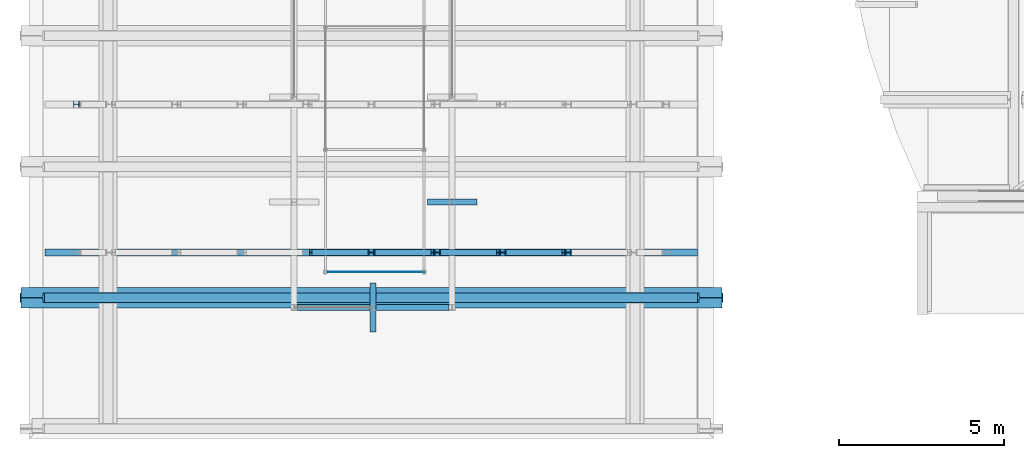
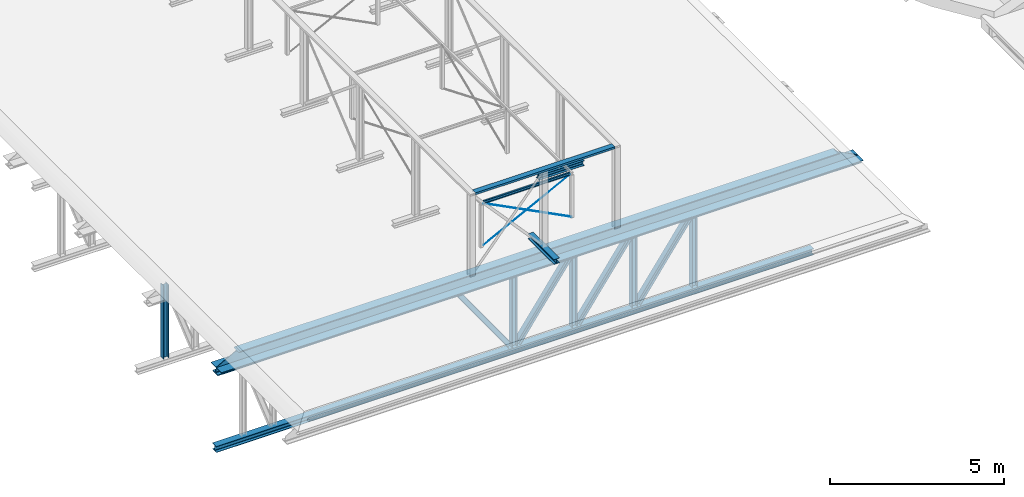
# One storey, part 9 of 50: 17 beams.
"""IFC2X3 building model written with IfcOpenShell, lengths in millimetres."""

from ifc_helpers import new_model, entity, si_unit, converted_unit, derived_unit, direction, frame, frame_2d, origin, origin_2d_with_axis, place, context, subcontext, project, spatial, polyline, circle_curve, parameter, trimmed, segment, composite_curve, rectangle, circle, i_section, outline, extrude, clip, halfspace, bounded_halfspace, source, transform, mapped, material, material_list, type_object, type_shapes, element, save


model = new_model("IFC2X3")

# Units and contexts
model_context = context("Model", 3, precision=0.01, world=origin(), true_north=direction((6.12303176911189e-17, 1.0)))
body_context = subcontext(model_context, "Body", "Model", "MODEL_VIEW")
ifc_project = project(units=[si_unit("LENGTHUNIT", "METRE", prefix="MILLI"), si_unit("AREAUNIT", "SQUARE_METRE", prefix="MILLI"), si_unit("VOLUMEUNIT", "CUBIC_METRE"), converted_unit("PLANEANGLEUNIT", "DEGREE", entity("IfcRatioMeasure", 0.0174532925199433), si_unit("PLANEANGLEUNIT", "RADIAN"), dimensions=[0, 0, 0, 0, 0, 0, 0]), si_unit("MASSUNIT", "GRAM", prefix="KILO"), derived_unit("MASSDENSITYUNIT", [(si_unit("MASSUNIT", "GRAM", prefix="KILO"), 1), (si_unit("LENGTHUNIT", "METRE"), -3)]), derived_unit("MOMENTOFINERTIAUNIT", [(si_unit("LENGTHUNIT", "METRE"), 4)]), si_unit("TIMEUNIT", "SECOND"), si_unit("FREQUENCYUNIT", "HERTZ"), si_unit("THERMODYNAMICTEMPERATUREUNIT", "DEGREE_CELSIUS"), derived_unit("THERMALTRANSMITTANCEUNIT", [(si_unit("MASSUNIT", "GRAM", prefix="KILO"), 1), (si_unit("THERMODYNAMICTEMPERATUREUNIT", "KELVIN"), -1), (si_unit("TIMEUNIT", "SECOND"), -3)]), derived_unit("VOLUMETRICFLOWRATEUNIT", [(si_unit("LENGTHUNIT", "METRE"), 3), (si_unit("TIMEUNIT", "SECOND"), -1)]), si_unit("ELECTRICCURRENTUNIT", "AMPERE"), si_unit("ELECTRICVOLTAGEUNIT", "VOLT"), si_unit("POWERUNIT", "WATT"), si_unit("FORCEUNIT", "NEWTON", prefix="KILO"), si_unit("ILLUMINANCEUNIT", "LUX"), si_unit("LUMINOUSFLUXUNIT", "LUMEN"), si_unit("LUMINOUSINTENSITYUNIT", "CANDELA"), derived_unit("USERDEFINED", [(si_unit("MASSUNIT", "GRAM", prefix="KILO"), -1), (si_unit("LENGTHUNIT", "METRE"), -2), (si_unit("TIMEUNIT", "SECOND"), 3), (si_unit("LUMINOUSFLUXUNIT", "LUMEN"), 1)]), derived_unit("LINEARVELOCITYUNIT", [(si_unit("LENGTHUNIT", "METRE"), 1), (si_unit("TIMEUNIT", "SECOND"), -1)]), si_unit("PRESSUREUNIT", "PASCAL"), derived_unit("USERDEFINED", [(si_unit("LENGTHUNIT", "METRE"), -2), (si_unit("MASSUNIT", "GRAM", prefix="KILO"), 1), (si_unit("TIMEUNIT", "SECOND"), -2)]), derived_unit("LINEARFORCEUNIT", [(si_unit("MASSUNIT", "GRAM", prefix="KILO"), 1), (si_unit("LENGTHUNIT", "METRE"), 1), (si_unit("TIMEUNIT", "SECOND"), -2), (si_unit("LENGTHUNIT", "METRE"), -1)]), derived_unit("PLANARFORCEUNIT", [(si_unit("MASSUNIT", "GRAM", prefix="KILO"), 1), (si_unit("LENGTHUNIT", "METRE"), 1), (si_unit("TIMEUNIT", "SECOND"), -2), (si_unit("LENGTHUNIT", "METRE"), -2)])], contexts=[model_context])

# Site, building, storey
site_placement = place(None, origin())
site = spatial("IfcSite", under=ifc_project, at=site_placement, Name="Theater aan de Parade", CompositionType="ELEMENT")
building_placement = place(site_placement, origin())
building = spatial("IfcBuilding", under=site, at=building_placement, Name="Theater aan de Parade", CompositionType="ELEMENT")
storey_placement = place(building_placement, frame((0.0, 0.0, 15820.0)))
storey = spatial("IfcBuildingStorey", under=building, at=storey_placement, Name="04 vierde verdieping", CompositionType="ELEMENT", Elevation=15820.0)

# Beams
ifc_material_1 = material(Name="00_PBT_MAT_staal_S355")
beam_type_1 = type_object("IfcBeamType", Name="28_PBT_SF_staal_H-profiel:S355_HE220B", PredefinedType="NOTDEFINED")
beam_1_placement = place(storey_placement, frame((16193.8569884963, 19068.2922984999, -4340.0)))
element("IfcBeam", 1, at=beam_1_placement, inside=storey, type_object=beam_type_1, material=ifc_material_1, Name="28_PBT_SF_staal_H-profiel:S355_HE220B", ObjectType="28_PBT_SF_staal_H-profiel:S355_HE220B", context=body_context, shape_type="SweptSolid", body=[
    extrude(i_section(OverallWidth=220.000000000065, OverallDepth=220.0, WebThickness=9.49999999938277, FlangeThickness=15.9999999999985, FilletRadius=18.0000000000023, at=frame_2d((-1.08713038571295e-12, 5.41433564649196e-12), x_axis=(0.0, 1.0))), frame((0.0, 0.0, 0.0), z_axis=(1.0, 0.0, 0.0), x_axis=(0.0, 0.0, -1.0)), (0.0, 0.0, 1.0), 19820.0),
])
beam_type_2 = type_object("IfcBeamType", Name="28_PBT_SF_staal_H-profiel:S355_HE180A", PredefinedType="NOTDEFINED")
beam_2_placement = place(storey_placement, frame((17139.8569884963, 23568.2922985, -4340.0), z_axis=(1.0, 0.0, 0.0), x_axis=(0.0, 0.0, 1.0)))
element("IfcBeam", 2, at=beam_2_placement, inside=storey, type_object=beam_type_2, material=ifc_material_1, Name="28_PBT_SF_staal_H-profiel:S355_HE180A", ObjectType="28_PBT_SF_staal_H-profiel:S355_HE180A", context=body_context, shape_type="SweptSolid", body=[
    extrude(i_section(OverallWidth=179.999999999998, OverallDepth=171.0, WebThickness=6.00000000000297, FlangeThickness=9.49999999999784, FilletRadius=15.0000000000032, at=frame_2d((-2.16715534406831e-12, -2.16715534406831e-12), x_axis=(0.0, 1.0))), frame((122.7, 0.0, 0.0), z_axis=(1.0, 0.0, 0.0), x_axis=(0.0, 0.0, -1.0)), (0.0, 0.0, 1.0), 2574.60000000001),
])
beam_3_placement = place(storey_placement, frame((26103.8569884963, 19068.2922984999, -4340.0), z_axis=(1.0, 0.0, 0.0), x_axis=(0.0, 0.0, 1.0)))
element("IfcBeam", 3, at=beam_3_placement, inside=storey, type_object=beam_type_2, material=ifc_material_1, Name="28_PBT_SF_staal_H-profiel:S355_HE180A", ObjectType="28_PBT_SF_staal_H-profiel:S355_HE180A", context=body_context, shape_type="SweptSolid", body=[
    extrude(i_section(OverallWidth=180.0, OverallDepth=171.0, WebThickness=5.99999999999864, FlangeThickness=9.49999999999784, FilletRadius=15.0000000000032, at=frame_2d((-2.16715534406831e-12, 1.08002495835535e-12), x_axis=(0.0, 1.0))), frame((122.7, 0.0, 0.0), z_axis=(1.0, 0.0, 0.0), x_axis=(0.0, 0.0, -1.0)), (0.0, 0.0, 1.0), 2574.60000000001),
])
beam_4_placement = place(storey_placement, frame((28095.8569884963, 19068.2922984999, -4340.0), z_axis=(1.0, 0.0, 0.0), x_axis=(0.0, 0.0, 1.0)))
element("IfcBeam", 4, at=beam_4_placement, inside=storey, type_object=beam_type_2, material=ifc_material_1, Name="28_PBT_SF_staal_H-profiel:S355_HE180A", ObjectType="28_PBT_SF_staal_H-profiel:S355_HE180A", context=body_context, shape_type="SweptSolid", body=[
    extrude(i_section(OverallWidth=180.0, OverallDepth=171.0, WebThickness=5.99999999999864, FlangeThickness=9.49999999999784, FilletRadius=15.0000000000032, at=frame_2d((2.16715534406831e-12, -1.08002495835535e-12), x_axis=(0.0, 1.0))), frame((122.7, 0.0, 0.0), z_axis=(1.0, 0.0, 0.0), x_axis=(0.0, 0.0, -1.0)), (0.0, 0.0, 1.0), 2574.60000000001),
])
beam_5_placement = place(storey_placement, frame((30087.8569884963, 19068.2922984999, -4340.0), z_axis=(1.0, 0.0, 0.0), x_axis=(0.0, 0.0, 1.0)))
element("IfcBeam", 5, at=beam_5_placement, inside=storey, type_object=beam_type_2, material=ifc_material_1, Name="28_PBT_SF_staal_H-profiel:S355_HE180A", ObjectType="28_PBT_SF_staal_H-profiel:S355_HE180A", context=body_context, shape_type="SweptSolid", body=[
    extrude(i_section(OverallWidth=180.0, OverallDepth=171.0, WebThickness=5.99999999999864, FlangeThickness=9.49999999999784, FilletRadius=15.0000000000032, at=frame_2d((-2.16715534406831e-12, 3.25428572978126e-12), x_axis=(0.0, 1.0))), frame((122.7, 0.0, 0.0), z_axis=(1.0, 0.0, 0.0), x_axis=(0.0, 0.0, -1.0)), (0.0, 0.0, 1.0), 2574.60000000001),
])
beam_6_placement = place(storey_placement, frame((32079.8569884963, 19068.2922984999, -4340.0), z_axis=(1.0, 0.0, 0.0), x_axis=(0.0, 0.0, 1.0)))
element("IfcBeam", 6, at=beam_6_placement, inside=storey, type_object=beam_type_2, material=ifc_material_1, Name="28_PBT_SF_staal_H-profiel:S355_HE180A", ObjectType="28_PBT_SF_staal_H-profiel:S355_HE180A", context=body_context, shape_type="SweptSolid", body=[
    extrude(i_section(OverallWidth=180.0, OverallDepth=171.0, WebThickness=5.99999999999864, FlangeThickness=9.49999999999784, FilletRadius=15.0000000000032, at=frame_2d((2.16715534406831e-12, 5.41433564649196e-12), x_axis=(0.0, 1.0))), frame((122.7, 0.0, 0.0), z_axis=(1.0, 0.0, 0.0), x_axis=(0.0, 0.0, -1.0)), (0.0, 0.0, 1.0), 2574.60000000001),
])
beam_7_placement = place(storey_placement, frame((24111.8569884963, 19068.2922984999, -1520.0), z_axis=(0.816775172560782, 0.0, 0.576956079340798), x_axis=(0.576956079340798, 0.0, -0.816775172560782)))
element("IfcBeam", 7, at=beam_7_placement, inside=storey, type_object=beam_type_2, material=ifc_material_1, Name="28_PBT_SF_staal_H-profiel:S355_HE180A", ObjectType="28_PBT_SF_staal_H-profiel:S355_HE180A", context=body_context, shape_type="Clipping", body=[
    clip(clip(extrude(outline(composite_curve([segment(polyline([(76.0, -90.0), (85.4999999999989, -90.0)]), True, "CONTINUOUS"), segment(polyline([(85.4999999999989, -90.0), (85.499999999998, 90.0)]), True, "CONTINUOUS"), segment(polyline([(85.499999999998, 90.0), (76.0, 90.0)]), True, "CONTINUOUS"), segment(polyline([(76.0, 90.0), (76.0, 18.0)]), True, "CONTINUOUS"), segment(trimmed(circle_curve(frame_2d((61.0, 18.0), x_axis=(1.0, 0.0)), 15.0), [parameter(270.0)], [parameter(0.0)], True, "PARAMETER"), False, "CONTINUOUS"), segment(polyline([(61.0, 3.0), (-61.0, 3.0)]), True, "CONTINUOUS"), segment(trimmed(circle_curve(frame_2d((-61.0, 18.0), x_axis=(0.0, -1.0)), 14.9999999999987), [parameter(269.999999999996)], [parameter(0.0)], True, "PARAMETER"), False, "CONTINUOUS"), segment(polyline([(-76.0, 18.0), (-76.0, 90.0)]), True, "CONTINUOUS"), segment(polyline([(-76.0, 90.0), (-85.5000000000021, 90.0)]), True, "CONTINUOUS"), segment(polyline([(-85.5000000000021, 90.0), (-85.5000000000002, -90.0)]), True, "CONTINUOUS"), segment(polyline([(-85.5000000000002, -90.0), (-76.0, -90.0)]), True, "CONTINUOUS"), segment(polyline([(-76.0, -90.0), (-76.0, -18.0)]), True, "CONTINUOUS"), segment(trimmed(circle_curve(frame_2d((-61.0, -18.0), x_axis=(-1.0, 0.0)), 14.9999999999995), [parameter(269.999999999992)], [parameter(0.0)], True, "PARAMETER"), False, "CONTINUOUS"), segment(polyline([(-61.0, -3.0), (61.0, -3.0)]), True, "CONTINUOUS"), segment(trimmed(circle_curve(frame_2d((61.0, -18.0), x_axis=(0.0, 1.0)), 14.9999999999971), [parameter(269.999999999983)], [parameter(0.0)], True, "PARAMETER"), False, "CONTINUOUS"), segment(polyline([(76.0, -18.0), (76.0, -90.0)]), True, "CONTINUOUS")], self_intersect=False)), frame((207.771728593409, 0.0, 0.0), z_axis=(1.0, 0.0, 0.0), x_axis=(0.0, 0.0, -1.0)), (0.0, 0.0, 1.0), 3037.0590394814), halfspace(frame((2280.29204276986, 110.0, -1481.59297368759), z_axis=(-0.576956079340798, 0.0, -0.816775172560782), x_axis=(-0.816775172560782, 0.0, 0.576956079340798)), False)), halfspace(frame((3307.85082007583, -110.0, -26.9163913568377), z_axis=(0.576956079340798, 0.0, 0.816775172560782), x_axis=(-0.816775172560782, 0.0, 0.576956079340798)), False)),
])
beam_8_placement = place(storey_placement, frame((26103.8569884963, 19068.2922984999, -4340.0), z_axis=(0.816775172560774, 0.0, -0.576956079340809), x_axis=(0.576956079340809, 0.0, 0.816775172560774)))
element("IfcBeam", 8, at=beam_8_placement, inside=storey, type_object=beam_type_2, material=ifc_material_1, Name="28_PBT_SF_staal_H-profiel:S355_HE180A", ObjectType="28_PBT_SF_staal_H-profiel:S355_HE180A", context=body_context, shape_type="Clipping", body=[
    clip(clip(extrude(outline(composite_curve([segment(polyline([(76.0, -90.0), (85.5000000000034, -90.0)]), True, "CONTINUOUS"), segment(polyline([(85.499999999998, -90.0), (85.5000000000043, 90.0)]), True, "CONTINUOUS"), segment(polyline([(85.4999999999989, 90.0), (76.0, 90.0)]), True, "CONTINUOUS"), segment(polyline([(76.0, 90.0), (76.0, 18.0)]), True, "CONTINUOUS"), segment(trimmed(circle_curve(frame_2d((61.0, 18.0), x_axis=(1.0, 0.0)), 14.999999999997), [parameter(269.999999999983)], [parameter(0.0)], True, "PARAMETER"), False, "CONTINUOUS"), segment(polyline([(61.0, 3.0), (-61.0, 3.0)]), True, "CONTINUOUS"), segment(trimmed(circle_curve(frame_2d((-61.0, 18.0), x_axis=(0.0, -1.0)), 14.9999999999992), [parameter(269.999999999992)], [parameter(0.0)], True, "PARAMETER"), False, "CONTINUOUS"), segment(polyline([(-76.0, 18.0), (-76.0, 90.0)]), True, "CONTINUOUS"), segment(polyline([(-76.0, 90.0), (-85.4999999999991, 90.0)]), True, "CONTINUOUS"), segment(polyline([(-85.499999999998, 90.0), (-85.4999999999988, -90.0)]), True, "CONTINUOUS"), segment(polyline([(-85.4999999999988, -90.0), (-76.0, -90.0)]), True, "CONTINUOUS"), segment(polyline([(-76.0, -90.0), (-76.0, -18.0)]), True, "CONTINUOUS"), segment(trimmed(circle_curve(frame_2d((-61.0, -18.0), x_axis=(-1.0, 0.0)), 14.9999999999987), [parameter(269.999999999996)], [parameter(0.0)], True, "PARAMETER"), False, "CONTINUOUS"), segment(polyline([(-61.0, -3.0), (61.0, -3.0)]), True, "CONTINUOUS"), segment(trimmed(circle_curve(frame_2d((61.0, -18.0), x_axis=(0.0, 1.0)), 14.999999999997), [parameter(269.999999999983)], [parameter(0.0)], True, "PARAMETER"), False, "CONTINUOUS"), segment(polyline([(76.0, -18.0), (76.0, -90.0)]), True, "CONTINUOUS")], self_intersect=False)), frame((207.771728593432, 0.0, 0.0), z_axis=(1.0, 0.0, 0.0), x_axis=(0.0, 0.0, -1.0)), (0.0, 0.0, 1.0), 3037.0590394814), halfspace(frame((144.751676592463, -110.0, 26.9163913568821), z_axis=(-0.576956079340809, 0.0, -0.816775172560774), x_axis=(0.816775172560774, 0.0, -0.576956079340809)), False)), halfspace(frame((1172.31045389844, 110.0, 1481.59297368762), z_axis=(0.576956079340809, 0.0, 0.816775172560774), x_axis=(0.816775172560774, 0.0, -0.576956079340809)), False)),
])
beam_9_placement = place(storey_placement, frame((28095.8569884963, 19068.2922984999, -4340.0), z_axis=(0.816775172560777, 0.0, -0.576956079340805), x_axis=(0.576956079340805, 0.0, 0.816775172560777)))
element("IfcBeam", 9, at=beam_9_placement, inside=storey, type_object=beam_type_2, material=ifc_material_1, Name="28_PBT_SF_staal_H-profiel:S355_HE180A", ObjectType="28_PBT_SF_staal_H-profiel:S355_HE180A", context=body_context, shape_type="Clipping", body=[
    clip(clip(extrude(outline(composite_curve([segment(polyline([(76.0, -90.0), (85.499999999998, -90.0)]), True, "CONTINUOUS"), segment(polyline([(85.4999999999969, -90.0), (85.4999999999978, 90.0)]), True, "CONTINUOUS"), segment(polyline([(85.4999999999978, 90.0), (76.0, 90.0)]), True, "CONTINUOUS"), segment(polyline([(76.0, 90.0), (76.0, 18.0)]), True, "CONTINUOUS"), segment(trimmed(circle_curve(frame_2d((61.0, 18.0), x_axis=(1.0, 0.0)), 14.999999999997), [parameter(269.999999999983)], [parameter(0.0)], True, "PARAMETER"), False, "CONTINUOUS"), segment(polyline([(61.0, 3.0), (-61.0, 3.0)]), True, "CONTINUOUS"), segment(trimmed(circle_curve(frame_2d((-61.0, 18.0), x_axis=(0.0, -1.0)), 14.9999999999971), [parameter(269.999999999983)], [parameter(0.0)], True, "PARAMETER"), False, "CONTINUOUS"), segment(polyline([(-76.0, 18.0), (-76.0, 90.0)]), True, "CONTINUOUS"), segment(polyline([(-76.0, 90.0), (-85.4999999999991, 90.0)]), True, "CONTINUOUS"), segment(polyline([(-85.4999999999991, 90.0), (-85.4999999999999, -90.0)]), True, "CONTINUOUS"), segment(polyline([(-85.4999999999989, -90.0), (-76.0, -90.0)]), True, "CONTINUOUS"), segment(polyline([(-76.0, -90.0), (-76.0, -18.0)]), True, "CONTINUOUS"), segment(trimmed(circle_curve(frame_2d((-61.0, -18.0), x_axis=(-1.0, 0.0)), 14.9999999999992), [parameter(269.999999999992)], [parameter(0.0)], True, "PARAMETER"), False, "CONTINUOUS"), segment(polyline([(-61.0, -3.0), (61.0, -3.0)]), True, "CONTINUOUS"), segment(trimmed(circle_curve(frame_2d((61.0, -18.0), x_axis=(0.0, 1.0)), 14.9999999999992), [parameter(269.999999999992)], [parameter(0.0)], True, "PARAMETER"), False, "CONTINUOUS"), segment(polyline([(76.0, -18.0), (76.0, -90.0)]), True, "CONTINUOUS")], self_intersect=False)), frame((207.771728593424, 0.0, 0.0), z_axis=(1.0, 0.0, 0.0), x_axis=(0.0, 0.0, -1.0)), (0.0, 0.0, 1.0), 3037.0590394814), halfspace(frame((144.751676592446, -110.0, 26.9163913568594), z_axis=(-0.576956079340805, 0.0, -0.816775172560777), x_axis=(0.816775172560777, 0.0, -0.576956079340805)), False)), halfspace(frame((1172.31045389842, 110.0, 1481.5929736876), z_axis=(0.576956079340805, 0.0, 0.816775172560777), x_axis=(0.816775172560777, 0.0, -0.576956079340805)), False)),
])
beam_10_placement = place(storey_placement, frame((30087.8569884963, 19068.2922984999, -4340.0), z_axis=(0.816775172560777, 0.0, -0.576956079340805), x_axis=(0.576956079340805, 0.0, 0.816775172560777)))
element("IfcBeam", 10, at=beam_10_placement, inside=storey, type_object=beam_type_2, material=ifc_material_1, Name="28_PBT_SF_staal_H-profiel:S355_HE180A", ObjectType="28_PBT_SF_staal_H-profiel:S355_HE180A", context=body_context, shape_type="Clipping", body=[
    clip(clip(extrude(outline(composite_curve([segment(polyline([(76.0, -90.0), (85.499999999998, -90.0)]), True, "CONTINUOUS"), segment(polyline([(85.4999999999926, -90.0), (85.4999999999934, 90.0)]), True, "CONTINUOUS"), segment(polyline([(85.4999999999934, 90.0), (76.0, 90.0)]), True, "CONTINUOUS"), segment(polyline([(76.0, 90.0), (76.0, 18.0)]), True, "CONTINUOUS"), segment(trimmed(circle_curve(frame_2d((61.0, 18.0), x_axis=(1.0, 0.0)), 14.999999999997), [parameter(269.999999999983)], [parameter(0.0)], True, "PARAMETER"), False, "CONTINUOUS"), segment(polyline([(61.0, 3.0), (-61.0, 3.0)]), True, "CONTINUOUS"), segment(trimmed(circle_curve(frame_2d((-61.0, 18.0), x_axis=(0.0, -1.0)), 14.9999999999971), [parameter(269.999999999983)], [parameter(0.0)], True, "PARAMETER"), False, "CONTINUOUS"), segment(polyline([(-76.0, 18.0), (-76.0, 90.0)]), True, "CONTINUOUS"), segment(polyline([(-76.0, 90.0), (-85.5000000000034, 90.0)]), True, "CONTINUOUS"), segment(polyline([(-85.499999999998, 90.0), (-85.5000000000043, -90.0)]), True, "CONTINUOUS"), segment(polyline([(-85.5000000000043, -90.0), (-76.0, -90.0)]), True, "CONTINUOUS"), segment(polyline([(-76.0, -90.0), (-76.0, -18.0)]), True, "CONTINUOUS"), segment(trimmed(circle_curve(frame_2d((-61.0, -18.0), x_axis=(-1.0, 0.0)), 14.9999999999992), [parameter(269.999999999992)], [parameter(0.0)], True, "PARAMETER"), False, "CONTINUOUS"), segment(polyline([(-61.0, -3.0), (61.0, -3.0)]), True, "CONTINUOUS"), segment(trimmed(circle_curve(frame_2d((61.0, -18.0), x_axis=(0.0, 1.0)), 14.9999999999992), [parameter(269.999999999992)], [parameter(0.0)], True, "PARAMETER"), False, "CONTINUOUS"), segment(polyline([(76.0, -18.0), (76.0, -90.0)]), True, "CONTINUOUS")], self_intersect=False)), frame((207.771728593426, 0.0, 0.0), z_axis=(1.0, 0.0, 0.0), x_axis=(0.0, 0.0, -1.0)), (0.0, 0.0, 1.0), 3037.0590394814), halfspace(frame((144.751676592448, -110.0, 26.9163913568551), z_axis=(-0.576956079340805, 0.0, -0.816775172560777), x_axis=(0.816775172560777, 0.0, -0.576956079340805)), False)), halfspace(frame((1172.31045389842, 110.0, 1481.5929736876), z_axis=(0.576956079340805, 0.0, 0.816775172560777), x_axis=(0.816775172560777, 0.0, -0.576956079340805)), False)),
])
beam_11_placement = place(storey_placement, frame((26153.8569986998, 18148.8337248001, 0.0), z_axis=(0.0, 0.0, 1.0), x_axis=(0.0, -1.0, 0.0)))
element("IfcBeam", 11, at=beam_11_placement, inside=storey, type_object=beam_type_2, material=ifc_material_1, Name="28_PBT_SF_staal_H-profiel:S355_HE180A", ObjectType="28_PBT_SF_staal_H-profiel:S355_HE180A", context=body_context, shape_type="SweptSolid", body=[
    extrude(i_section(OverallWidth=179.999999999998, OverallDepth=171.0, WebThickness=6.00000000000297, FlangeThickness=9.49999999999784, FilletRadius=15.0000000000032, at=frame_2d((-2.16715534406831e-12, -2.16715534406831e-12), x_axis=(0.0, 1.0))), frame((0.0, 0.0, 184.499999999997), z_axis=(1.0, 0.0, 0.0), x_axis=(0.0, 0.0, -1.0)), (0.0, 0.0, 1.0), 1500.00000000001),
])
beam_12_placement = place(storey_placement, frame((27803.8569986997, 20598.8337248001, 0.0)))
element("IfcBeam", 12, at=beam_12_placement, inside=storey, type_object=beam_type_2, material=ifc_material_1, Name="28_PBT_SF_staal_H-profiel:S355_HE180A", ObjectType="28_PBT_SF_staal_H-profiel:S355_HE180A", context=body_context, shape_type="SweptSolid", body=[
    extrude(i_section(OverallWidth=180.000000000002, OverallDepth=171.0, WebThickness=6.00000000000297, FlangeThickness=9.49999999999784, FilletRadius=15.0000000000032, at=frame_2d((-2.16715534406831e-12, -2.16715534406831e-12), x_axis=(0.0, 1.0))), frame((0.0, 0.0, 184.499999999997), z_axis=(1.0, 0.0, 0.0), x_axis=(0.0, 0.0, -1.0)), (0.0, 0.0, 1.0), 1500.00000000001),
])
ifc_material_2 = material(Name="00_PBT_MAT_Lucht")
ifc_material_list = material_list([ifc_material_1, ifc_material_2])
beam_type_3 = type_object("IfcBeamType", Name="28_PBT_SF_staal_H-profiel_met_oplegstrippen (void):S355_HE600B + oplegstrippen d=15_vloer h=500", PredefinedType="BEAM", material=ifc_material_list)
shared_shape = source(origin(), body_context, "Body", "Clipping", [
    clip(clip(clip(clip(extrude(i_section(OverallWidth=300.000000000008, OverallDepth=600.0, WebThickness=15.4999999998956, FlangeThickness=29.9999999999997, FilletRadius=27.0000000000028, at=frame_2d((-1.08002495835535e-12, 4.33431068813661e-12), x_axis=(0.0, 1.0))), frame((15427.3042052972, 17694.2274014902, 15490.0), z_axis=(1.0, 0.0, 0.0), x_axis=(0.0, 0.0, -1.0)), (0.0, 0.0, 1.0), 21352.8563544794), bounded_halfspace(frame((36780.1605597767, 40306.3639688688, 15190.0), z_axis=(0.990313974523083, 0.0, 0.138846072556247), x_axis=(0.0, -1.0, 0.0)), False, frame((15427.3042052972, 17694.2274014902, 15490.0), z_axis=(1.0, 0.0, 0.0), x_axis=(0.0, 0.0, -1.0)), polyline([(101.500000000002, 7.74999999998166), (101.499999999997, -7.75000000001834), (243.0, -7.75000000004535), (270.0, -34.7500000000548), (270.0, -150.0), (300.0, -150.0), (300.0, 150.0), (270.0, 150.0), (270.0, 34.7499999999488), (243.0, 7.74999999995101), (101.500000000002, 7.74999999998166)]))), bounded_halfspace(frame((36752.3300473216, 40306.3639688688, 15388.5), z_axis=(0.474088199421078, 0.0, 0.880477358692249), x_axis=(0.0, -1.0, 0.0)), False, frame((15427.3042052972, 17694.2274014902, 15490.0), z_axis=(1.0, 0.0, 0.0), x_axis=(0.0, 0.0, -1.0)), polyline([(101.499999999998, -7.75000000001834), (101.500000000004, 7.74999999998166), (-64.1883202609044, 7.75000000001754), (-243.0, 7.75000000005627), (-270.0, 34.7500000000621), (-270.0, 150.0), (-300.0, 150.0), (-300.0, -150.0), (-270.0, -150.0), (-270.0, -34.7499999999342), (-243.0, -7.74999999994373), (-64.1883202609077, -7.74999999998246), (101.499999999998, -7.75000000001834)]))), bounded_halfspace(frame((15427.3042052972, -4917.90916588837, 15190.0), z_axis=(-0.989382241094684, 0.0, 0.145336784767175), x_axis=(0.0, 1.0, 0.0)), False, frame((15427.3042052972, 17694.2274014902, 15490.0), z_axis=(1.0, 0.0, 0.0), x_axis=(0.0, 0.0, -1.0)), polyline([(100.0, -7.75000000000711), (100.0, 7.74999999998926), (243.0, 7.74999999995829), (270.0, 34.7499999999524), (270.0, 150.0), (300.0, 150.0), (300.0, -150.0), (270.0, -150.0), (270.0, -34.7500000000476), (243.0, -7.75000000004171), (100.0, -7.75000000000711)]))), bounded_halfspace(frame((15456.6835045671, -4917.90916588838, 15390.0), z_axis=(-0.484809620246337, 0.0, 0.874619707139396), x_axis=(0.0, 1.0, 0.0)), False, frame((15427.3042052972, 17694.2274014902, 15490.0), z_axis=(1.0, 0.0, 0.0), x_axis=(0.0, 0.0, -1.0)), polyline([(100.0, 7.74999999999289), (100.0, -7.75000000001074), (-68.1459013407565, -7.74999999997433), (-243.0, -7.74999999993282), (-270.0, -34.7499999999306), (-270.0, -150.0), (-300.0, -150.0), (-300.0, 150.0), (-270.0, 150.0), (-270.0, 34.7500000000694), (-243.0, 7.75000000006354), (-68.1459013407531, 7.75000000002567), (100.0, 7.74999999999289)]))),
    clip(clip(clip(extrude(rectangle(XDim=15.0000000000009, YDim=300.000000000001, at=frame_2d((6.49436060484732e-12, -1.08268949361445e-12), x_axis=(0.0, 1.0))), frame((15454.4800571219, 17851.9774014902, 15382.5), z_axis=(1.0, 0.0, 0.0), x_axis=(0.0, 1.0, 0.0)), (0.0, 0.0, 1.0), 21299.7427454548), halfspace(frame((15427.3042052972, -4917.90916588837, 15190.0), z_axis=(-0.989382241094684, 0.0, 0.145336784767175), x_axis=(0.0, 1.0, 0.0)), False)), bounded_halfspace(frame((36780.1605597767, 40306.3639688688, 15190.0), z_axis=(0.990313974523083, 0.0, 0.138846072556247), x_axis=(0.0, -1.0, 0.0)), False, frame((15454.4800571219, 17851.9774014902, 15382.5), z_axis=(1.0, 0.0, 0.0), x_axis=(0.0, 1.0, 0.0)), polyline([(150.0, 6.0), (-150.0, 6.0), (-150.0, -7.50000000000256), (150.0, -7.49999999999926), (150.0, 6.0)]))), bounded_halfspace(frame((36752.3300473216, 40306.3639688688, 15388.5), z_axis=(0.474088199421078, 0.0, 0.880477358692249), x_axis=(0.0, -1.0, 0.0)), False, frame((15454.4800571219, 17851.9774014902, 15382.5), z_axis=(1.0, 0.0, 0.0), x_axis=(0.0, 1.0, 0.0)), polyline([(-150.0, 6.0), (150.0, 6.0), (150.0, 7.49999999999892), (-150.0, 7.49999999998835), (-150.0, 6.0)]))),
    clip(clip(extrude(rectangle(XDim=11.9999999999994, YDim=299.999999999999, at=frame_2d((2.16582307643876e-12, 7.58859641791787e-12), x_axis=(1.0, 0.0))), frame((15454.7004018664, 17536.4774014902, 15382.5), z_axis=(1.0, 0.0, 0.0), x_axis=(0.0, 0.0, -1.0)), (0.0, 0.0, 1.0), 21299.3120945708), halfspace(frame((36780.1605597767, 40306.3639688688, 15190.0), z_axis=(0.990313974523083, 0.0, 0.138846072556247), x_axis=(0.0, -1.0, 0.0)), False)), halfspace(frame((15427.3042052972, -4917.90916588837, 15190.0), z_axis=(-0.989382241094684, 0.0, 0.145336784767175), x_axis=(0.0, 1.0, 0.0)), False)),
])
type_shapes(beam_type_3, [shared_shape])
beam_13_placement = place(storey_placement, frame((0.0, 0.0, -15820.0)))
element("IfcBeam", 13, at=beam_13_placement, inside=storey, type_object=beam_type_3, material=ifc_material_1, Name="28_PBT_SF_staal_H-profiel_met_oplegstrippen (void):S355_HE600B + oplegstrippen d=15_vloer h=500", ObjectType="28_PBT_SF_staal_H-profiel_met_oplegstrippen (void):S355_HE600B + oplegstrippen d=15_vloer h=500", context=body_context, shape_type="MappedRepresentation", body=[
    mapped(shared_shape, transform((0.0, 0.0, 0.0), scale=1.0)),
])
beam_type_4 = type_object("IfcBeamType", Name="28_PBT_SF_staal_IPE-profiel:S355_IPE100", PredefinedType="NOTDEFINED")
beam_14_placement = place(storey_placement, frame((24703.8569986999, 18478.8337248, 1680.0)))
element("IfcBeam", 14, at=beam_14_placement, inside=storey, type_object=beam_type_4, material=ifc_material_1, Name="28_PBT_SF_staal_IPE-profiel:S355_IPE100", ObjectType="28_PBT_SF_staal_IPE-profiel:S355_IPE100", context=body_context, shape_type="SweptSolid", body=[
    extrude(i_section(OverallWidth=55.0000000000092, OverallDepth=99.9999999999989, WebThickness=4.09999999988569, FlangeThickness=5.6999999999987, FilletRadius=7.00000000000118, at=frame_2d((0.0, 6.49613696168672e-12), x_axis=(0.0, 1.0))), frame((62.6999999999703, 0.0, -50.0), z_axis=(1.0, 0.0, 0.0), x_axis=(0.0, 0.0, -1.0)), (0.0, 0.0, 1.0), 2874.59999999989),
])
beam_type_5 = type_object("IfcBeamType", Name="28_PBT_SF_staal_UNP-profiel:S355_UNP180", PredefinedType="NOTDEFINED")
beam_15_placement = place(storey_placement, frame((28463.8569986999, 17398.8337248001, 2990.0), z_axis=(0.0, 0.0, 1.0), x_axis=(-1.0, 0.0, 0.0)))
element("IfcBeam", 15, at=beam_15_placement, inside=storey, type_object=beam_type_5, material=ifc_material_1, Name="28_PBT_SF_staal_UNP-profiel:S355_UNP180", ObjectType="28_PBT_SF_staal_UNP-profiel:S355_UNP180", context=body_context, shape_type="SweptSolid", body=[
    extrude(outline(composite_curve([segment(polyline([(-38.5102335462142, -90.0), (31.4897664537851, -90.0)]), True, "CONTINUOUS"), segment(polyline([(31.4897664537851, -90.0), (31.4897664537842, -86.8775719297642)]), True, "CONTINUOUS"), segment(trimmed(circle_curve(frame_2d((25.989766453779, -86.8775719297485), x_axis=(1.0, 0.0)), 5.50000000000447), [parameter(0.0)], [parameter(85.4260787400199)], True, "PARAMETER"), True, "CONTINUOUS"), segment(polyline([(26.428365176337, -81.3950878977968), (-20.3874309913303, -77.6498242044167)]), True, "CONTINUOUS"), segment(trimmed(circle_curve(frame_2d((-19.5102335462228, -66.6848561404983), x_axis=(-0.0797452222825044, -0.996815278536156)), 10.9999999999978), [parameter(274.573921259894)], [parameter(0.0)], True, "PARAMETER"), False, "CONTINUOUS"), segment(polyline([(-30.5102335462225, -66.6848561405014), (-30.5102335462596, 66.6848561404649)]), True, "CONTINUOUS"), segment(trimmed(circle_curve(frame_2d((-19.5102335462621, 66.6848561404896), x_axis=(-1.0, 0.0)), 10.9999999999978), [parameter(274.573921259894)], [parameter(0.0)], True, "PARAMETER"), False, "CONTINUOUS"), segment(polyline([(-20.3874309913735, 77.6498242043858), (26.4283651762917, 81.3950878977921)]), True, "CONTINUOUS"), segment(trimmed(circle_curve(frame_2d((25.9897664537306, 86.8775719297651), x_axis=(0.079745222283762, -0.996815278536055)), 5.50000000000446), [parameter(0.0)], [parameter(85.4260787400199)], True, "PARAMETER"), True, "CONTINUOUS"), segment(polyline([(31.4897664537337, 86.8775719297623), (31.4897664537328, 90.0)]), True, "CONTINUOUS"), segment(polyline([(31.4897664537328, 90.0), (-38.5102335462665, 90.0)]), True, "CONTINUOUS"), segment(polyline([(-38.5102335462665, 90.0), (-38.5102335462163, -90.0)]), True, "CONTINUOUS")], self_intersect=False)), frame((0.0, 0.0, -38.5102335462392), z_axis=(1.0, 0.0, 0.0), x_axis=(0.0, 0.0, -1.0)), (0.0, 0.0, 1.0), 4620.00000000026),
])
beam_type_6 = type_object("IfcBeamType", Name="28_PBT_SF_staal_massief_rond:S355_D16", PredefinedType="NOTDEFINED")
beam_16_placement = place(storey_placement, frame((24755.3236932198, 18478.8337248, 116.413217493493), z_axis=(-0.455562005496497, 0.0, 0.890204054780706), x_axis=(0.890204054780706, 0.0, 0.455562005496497)))
element("IfcBeam", 16, at=beam_16_placement, inside=storey, type_object=beam_type_6, material=ifc_material_1, Name="28_PBT_SF_staal_massief_rond:S355_D16", ObjectType="28_PBT_SF_staal_massief_rond:S355_D16", context=body_context, shape_type="SweptSolid", body=[
    extrude(circle(Radius=7.99999999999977, at=origin_2d_with_axis()), frame((15.1464071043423, 0.0, 0.0), z_axis=(1.0, 0.0, 0.0), x_axis=(0.0, 1.0, 0.0)), (0.0, 0.0, 1.0), 3224.09206013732),
])
beam_17_placement = place(storey_placement, frame((27698.2348565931, 18478.8337248, 92.9755146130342), z_axis=(0.455524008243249, 0.0, 0.890223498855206), x_axis=(-0.890223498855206, 0.0, 0.455524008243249)))
element("IfcBeam", 17, at=beam_17_placement, inside=storey, type_object=beam_type_6, material=ifc_material_1, Name="28_PBT_SF_staal_massief_rond:S355_D16", ObjectType="28_PBT_SF_staal_massief_rond:S355_D16", context=body_context, shape_type="SweptSolid", body=[
    extrude(circle(Radius=7.99999999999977, at=origin_2d_with_axis()), frame((0.0, 0.0, 0.0), z_axis=(1.0, 0.0, 0.0), x_axis=(0.0, 1.0, 0.0)), (0.0, 0.0, 1.0), 3290.66558135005),
])

save(model, "model.ifc")
